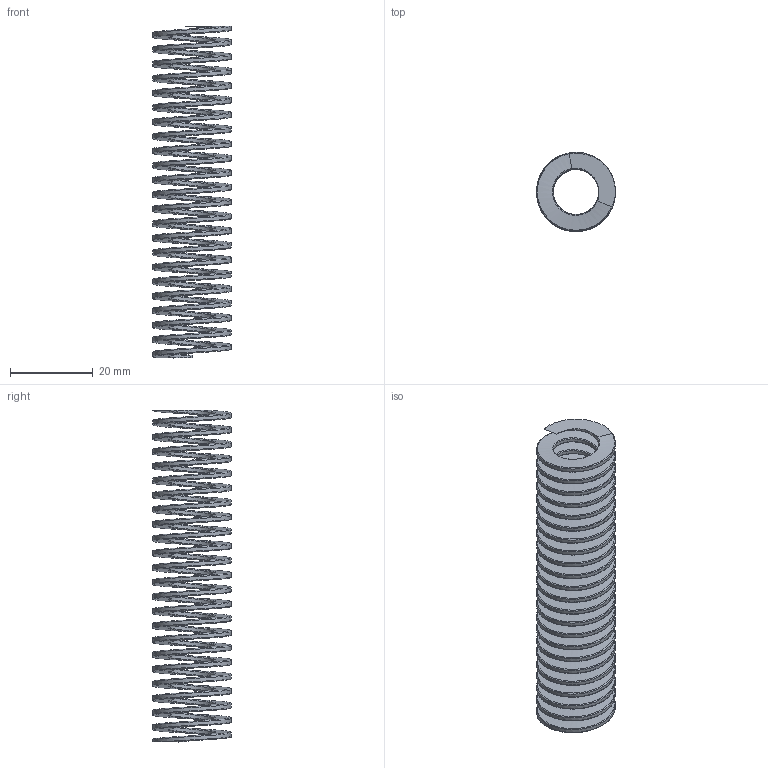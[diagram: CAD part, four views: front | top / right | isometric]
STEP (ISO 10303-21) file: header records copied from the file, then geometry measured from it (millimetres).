
FILE_DESCRIPTION(('CATIA V5 STEP Exchange','CAx-IF Rec.Pracs.--- Model Styling and Organization---1.5--- 2016-08-15','CAx-IF Rec.Pracs.---Supplemental Geometry---1.0---2011-11-01','CAx-IF Rec.Pracs.--- Composite Materials ---1.1---2010-07-15','CAx-IF Rec.Pracs.---External References---2.1---2005-01-19'),'2;1');
FILE_NAME('E:\WAT\Sprezarka\121_00_00_Tlocznik1\Tlocznik1_KPL\Tlocznik1_stp\241.14.20.115_ug35.stp','2023-08-01T08:49:44+00:00',('none'),('none'),'CATIA Version 5-6 Release 2022 SP3','CATIA V5 STEP AP214 v2','none');
FILE_SCHEMA(('AUTOMOTIVE_DESIGN { 1 0 10303 214 1 1 1 1 }'));
Length unit declared in the file: millimetre
Products named in the file (1): 241.14.20.115_ug35
Bounding box: 19 x 19 x 80.08 mm (x, y, z)
Volume: 3756 mm3; surface area: 10918.7 mm2
Topology: 1 solids, 1 shells, 11 faces, 27 edges, 18 vertices
Faces by surface type: bspline 8, plane 3
Entity records: 7815 total; most frequent: CARTESIAN_POINT 7604, ORIENTED_EDGE 54, EDGE_CURVE 27, VERTEX_POINT 18, B_SPLINE_CURVE_WITH_KNOTS 17, DIRECTION 12, ADVANCED_FACE 11, EDGE_LOOP 11
